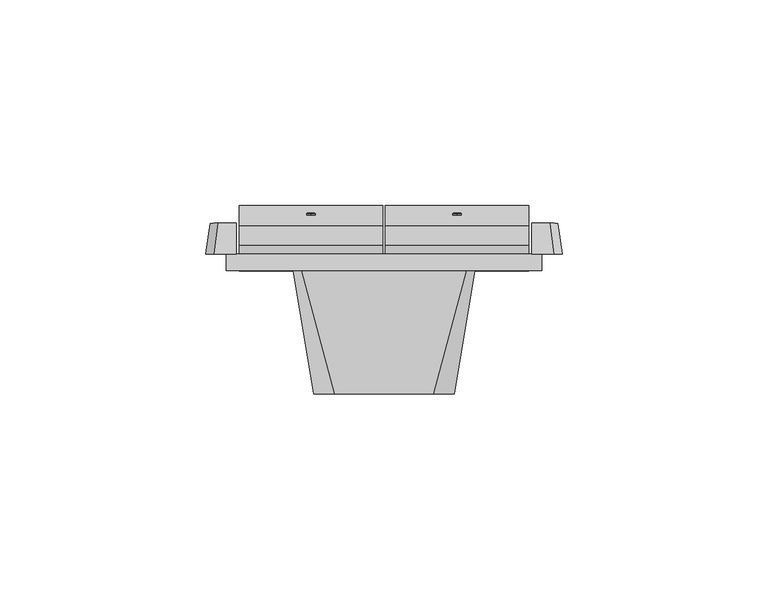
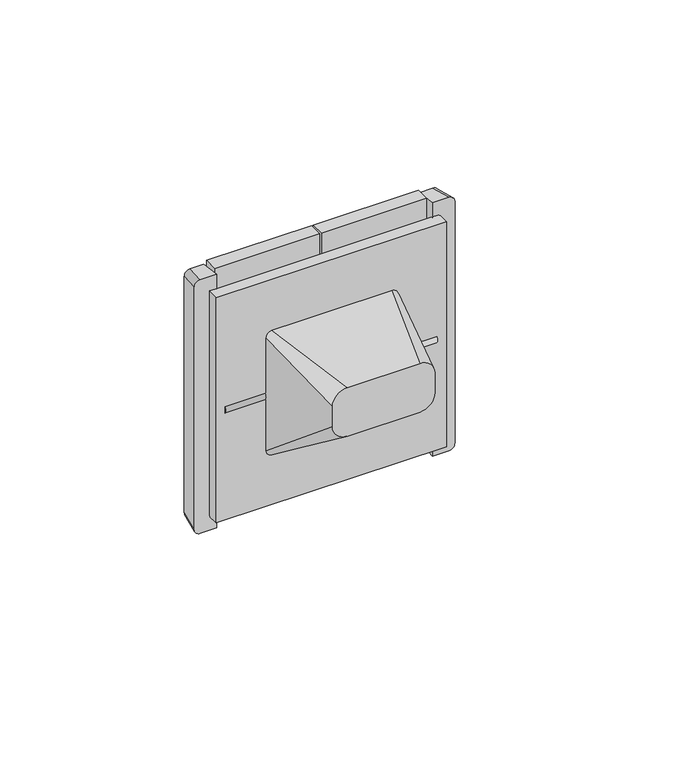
"""IFC4 building model written with IfcOpenShell, lengths in millimetres: proxy geometry, IEK_Forte&Piano_Выключатель : В2 И_FP106."""

from ifc_helpers import new_model, si_unit, point, frame, frame_2d, origin, place, context, project, spatial, polyline, circle_curve, ellipse_curve, trimmed, segment, composite_curve, outline, extrude, source, transform, mapped, element, save
from ifc_brep_helpers import plane_surface, cylinder_surface, revolved_surface, extruded_surface, spline_surface, advanced_brep


def electrical_fixtures_800dceb6(model_context):
    return source(origin(), model_context, "Body", "SolidModel", [
        advanced_brep(
        [(-35.2, 6.2549179, 2.9812023), (-35.2, 6.2549179, 44.8795088), (-35.2, 10.987727, 44.8795088), (-35.2, 15.7741028, -43.2498951), (-35.2, 10.7814607, -43.5210494), (-35.2, 6.5964168, -3.3066655), (-35.2, 1.5972872, -2.8692983), (-35.2, 0.9979294, 0.5298284), (-0.3, 6.2549179, 2.9812023), (-0.3, 0.9979294, 0.5298284), (-0.3, 1.5972872, -2.8692983), (-0.3, 6.5964168, -3.3066655), (-0.3, 7.4154801, -11.1771032), (-0.3, 11.5120925, -11.1771032), (-0.3, 11.5120925, -15.1771032), (-0.3, 7.8317535, -15.1771032), (-0.3, 10.7814607, -43.5210494), (-0.3, 15.7741028, -43.2498951), (-0.3, 10.987727, 44.8795088), (-0.3, 6.2549179, 44.8795088), (-6.0000251, 7.8317535, -15.1771032), (-6.0000251, 7.4154801, -11.1771032), (-6.0000251, 11.5120925, -11.1771032), (-6.0000251, 11.5120925, -15.1771032)],
        [
            (0, 1),
            (1, 2),
            (2, 3),
            (3, 4),
            (4, 5),
            (5, 6),
            (6, 7, circle_curve(frame((-35.2, 1.7530049, -1.0894363), z_axis=(-1.0, 0.0, 0.0), x_axis=(0.0, 1.0, 0.0)), 1.7866608)),
            (7, 0),
            (8, 9),
            (9, 10, circle_curve(frame((-0.3, 1.7530049, -1.0894363), z_axis=(1.0, 0.0, 0.0), x_axis=(0.0, 1.0, 0.0)), 1.7866608)),
            (10, 11),
            (11, 12),
            (12, 13),
            (13, 14),
            (14, 15),
            (15, 16),
            (16, 17),
            (17, 18),
            (18, 19),
            (19, 8),
            (0, 8),
            (19, 1),
            (7, 9),
            (6, 10),
            (5, 11),
            (4, 16),
            (15, 20),
            (20, 21, ellipse_curve(frame((-6.0000251, 7.6236168, -13.1771032), z_axis=(0.0, 0.9946284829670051, 0.10350932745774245), x_axis=(0.0, -0.10350932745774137, 0.9946284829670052)), 2.0108011, 2.0)),
            (21, 12),
            (3, 17),
            (2, 18),
            (22, 23, circle_curve(frame((-6.0000251, 11.5120925, -13.1771032), z_axis=(0.0, -1.0, 0.0), x_axis=(1.0, 0.0, 0.0)), 2.0)),
            (23, 14),
            (13, 22),
            (21, 22),
            (20, 23),
        ],
        [
            plane_surface(frame((-35.2, 6.2549179, 21.8770556), z_axis=(-1.0, 0.0, 0.0), x_axis=(0.0, 0.0, 1.0))),
            plane_surface(frame((-0.3, 6.2549179, 21.8770556), z_axis=(1.0, 0.0, 0.0), x_axis=(0.0, 0.0, -1.0))),
            plane_surface(frame((-35.2, 6.2549179, 2.9812023), z_axis=(0.0, -1.0, 0.0), x_axis=(1.0, 0.0, 0.0))),
            plane_surface(frame((-35.2, 0.9979294, 0.5298284), z_axis=(0.0, -0.4226182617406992, 0.90630778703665), x_axis=(1.0, 0.0, 0.0))),
            cylinder_surface(frame((-0.3, 1.7530049, -1.0894363), z_axis=(-1.0, 0.0, 0.0), x_axis=(0.0, 1.0, 0.0)), 1.7866608),
            plane_surface(frame((-35.2, 6.5964168, -3.3066655), z_axis=(0.0, -0.08715574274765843, -0.9961946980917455), x_axis=(1.0, 0.0, 0.0))),
            plane_surface(frame((-35.2, 10.7814607, -43.5210494), z_axis=(0.0, -0.9946284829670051, -0.10350932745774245), x_axis=(1.0, 0.0, 0.0))),
            plane_surface(frame((-35.2, 15.7741028, -43.2498951), z_axis=(0.0, 0.05423084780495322, -0.9985284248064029), x_axis=(1.0, 0.0, 0.0))),
            plane_surface(frame((-35.2, 10.987727, 44.8795088), z_axis=(0.0, 0.9985284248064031, 0.05423084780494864), x_axis=(1.0, 0.0, 0.0))),
            plane_surface(frame((-35.2, 6.2549179, 44.8795088), z_axis=(0.0, 0.0, 1.0), x_axis=(1.0, 0.0, 0.0))),
            plane_surface(frame((-6.0000251, 11.5120925, -11.1771032), z_axis=(0.0, -1.0, 0.0), x_axis=(1.0, 0.0, 0.0))),
            plane_surface(frame((6.0000251, 3.5120925, -11.1771032), z_axis=(0.0, 0.0, -1.0), x_axis=(0.0, 1.0, 0.0))),
            revolved_surface(polyline([(-4.0000251, 7.4154801, -13.1771032), (-4.0000251, 11.5120925, -13.1771032)]), (-6.0000251, 11.5120925, -13.1771032), (0.0, -1.0, 0.0)),
            plane_surface(frame((-6.0000251, 3.5120925, -15.1771032), z_axis=(0.0, 0.0, 1.0), x_axis=(0.0, 1.0, 0.0))),
        ],
        [
            (0, [[1, 2, 3, 4, 5, 6, 7, 8]]),
            (1, [[9, 10, 11, 12, 13, 14, 15, 16, 17, 18, 19, 20]]),
            (2, [[-1, 21, -20, 22]]),
            (3, [[-8, 23, -9, -21]]),
            (4, [[-7, 24, -10, -23]]),
            (5, [[-6, 25, -11, -24]]),
            (6, [[-5, 26, -16, 27, 28, 29, -12, -25]]),
            (7, [[-4, 30, -17, -26]]),
            (8, [[-3, 31, -18, -30]]),
            (9, [[-2, -22, -19, -31]]),
            (10, [[32, 33, -14, 34]]),
            (11, [[-34, -13, -29, 35]]),
            (12, [[-32, -35, -28, 36]]),
            (13, [[-33, -36, -27, -15]]),
        ],
    ),
        advanced_brep(
        [(35.2, 6.2549179, 2.9812023), (35.2, 0.9979294, 0.5298284), (35.2, 1.5972872, -2.8692983), (35.2, 6.5964168, -3.3066655), (35.2, 10.7814607, -43.5210494), (35.2, 15.7741028, -43.2498951), (35.2, 10.987727, 44.8795088), (35.2, 6.2549179, 44.8795088), (0.3, 6.2549179, 2.9812023), (0.3, 6.2549179, 44.8795088), (0.3, 10.987727, 44.8795088), (0.3, 15.7741028, -43.2498951), (0.3, 10.7814607, -43.5210494), (0.3, 7.8317535, -15.1771032), (0.3, 11.5120925, -15.1771032), (0.3, 11.5120925, -11.1771032), (0.3, 7.4154801, -11.1771032), (0.3, 6.5964168, -3.3066655), (0.3, 1.5972872, -2.8692983), (0.3, 0.9979294, 0.5298284), (6.0000251, 7.4154801, -11.1771032), (6.0000251, 7.8317535, -15.1771032), (6.0000251, 11.5120925, -15.1771032), (6.0000251, 11.5120925, -11.1771032)],
        [
            (0, 1),
            (1, 2, circle_curve(frame((35.2, 1.7530049, -1.0894363), z_axis=(1.0, 0.0, 0.0), x_axis=(0.0, 1.0, 0.0)), 1.7866608)),
            (2, 3),
            (3, 4),
            (4, 5),
            (5, 6),
            (6, 7),
            (7, 0),
            (8, 9),
            (9, 10),
            (10, 11),
            (11, 12),
            (12, 13),
            (13, 14),
            (14, 15),
            (15, 16),
            (16, 17),
            (17, 18),
            (18, 19, circle_curve(frame((0.3, 1.7530049, -1.0894363), z_axis=(-1.0, 0.0, 0.0), x_axis=(0.0, 1.0, 0.0)), 1.7866608)),
            (19, 8),
            (7, 9),
            (8, 0),
            (19, 1),
            (18, 2),
            (17, 3),
            (16, 20),
            (20, 21, ellipse_curve(frame((6.0000251, 7.6236168, -13.1771032), z_axis=(0.0, 0.9946284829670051, 0.10350932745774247), x_axis=(0.0, -0.10350932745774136, 0.9946284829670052)), 2.0108011, 2.0)),
            (21, 13),
            (12, 4),
            (11, 5),
            (10, 6),
            (22, 23, circle_curve(frame((6.0000251, 11.5120925, -13.1771032), z_axis=(0.0, -1.0, 0.0), x_axis=(1.0, 0.0, 0.0)), 2.0)),
            (23, 15),
            (14, 22),
            (23, 20),
            (21, 22),
        ],
        [
            plane_surface(frame((35.2, -0.6655077, -0.2458451), z_axis=(1.0, 0.0, 0.0), x_axis=(0.0, -0.9063077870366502, -0.42261826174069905))),
            plane_surface(frame((0.3, -0.6655077, -0.2458451), z_axis=(-1.0, 0.0, 0.0), x_axis=(0.0, 0.9063077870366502, 0.42261826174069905))),
            plane_surface(frame((35.2, 6.2549179, 44.8795088), z_axis=(0.0, -1.0, 0.0), x_axis=(-1.0, 0.0, 0.0))),
            plane_surface(frame((35.2, 6.2549179, 2.9812023), z_axis=(0.0, -0.42261826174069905, 0.9063077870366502), x_axis=(-1.0, 0.0, 0.0))),
            cylinder_surface(frame((0.3, 1.7530049, -1.0894363), z_axis=(1.0, 0.0, 0.0), x_axis=(0.0, 1.0, 0.0)), 1.7866608),
            plane_surface(frame((35.2, 1.5972872, -2.8692983), z_axis=(0.0, -0.08715574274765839, -0.9961946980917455), x_axis=(-1.0, 0.0, 0.0))),
            plane_surface(frame((35.2, 6.5964168, -3.3066655), z_axis=(0.0, -0.9946284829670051, -0.10350932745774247), x_axis=(-1.0, 0.0, 0.0))),
            plane_surface(frame((35.2, 10.7814607, -43.5210494), z_axis=(0.0, 0.05423084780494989, -0.998528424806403), x_axis=(-1.0, 0.0, 0.0))),
            plane_surface(frame((35.2, 15.7741028, -43.2498951), z_axis=(0.0, 0.9985284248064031, 0.05423084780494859), x_axis=(-1.0, 0.0, 0.0))),
            plane_surface(frame((35.2, 10.987727, 44.8795088), z_axis=(0.0, 0.0, 1.0), x_axis=(-1.0, 0.0, 0.0))),
            plane_surface(frame((-6.0000251, 11.5120925, -11.1771032), z_axis=(0.0, -1.0, 0.0), x_axis=(1.0, 0.0, 0.0))),
            plane_surface(frame((6.0000251, 3.5120925, -11.1771032), z_axis=(0.0, 0.0, -1.0), x_axis=(0.0, 1.0, 0.0))),
            plane_surface(frame((-6.0000251, 3.5120925, -15.1771032), z_axis=(0.0, 0.0, 1.0), x_axis=(0.0, 1.0, 0.0))),
            revolved_surface(polyline([(8.0000251, 7.4154801, -13.1771032), (8.0000251, 11.5120925, -13.1771032)]), (6.0000251, 11.5120925, -13.1771032), (0.0, -1.0, 0.0)),
        ],
        [
            (0, [[1, 2, 3, 4, 5, 6, 7, 8]]),
            (1, [[9, 10, 11, 12, 13, 14, 15, 16, 17, 18, 19, 20]]),
            (2, [[-8, 21, -9, 22]]),
            (3, [[-1, -22, -20, 23]]),
            (4, [[-2, -23, -19, 24]]),
            (5, [[-3, -24, -18, 25]]),
            (6, [[-4, -25, -17, 26, 27, 28, -13, 29]]),
            (7, [[-5, -29, -12, 30]]),
            (8, [[-6, -30, -11, 31]]),
            (9, [[-7, -31, -10, -21]]),
            (10, [[32, 33, -15, 34]]),
            (11, [[-33, 35, -26, -16]]),
            (12, [[-34, -14, -28, 36]]),
            (13, [[-32, -36, -27, -35]]),
        ],
    ),
        extrude(outline(composite_curve([segment(trimmed(circle_curve(frame_2d((0.0, -1.0000001)), 1.0), [point((0.0, -2.0000001))], [point((0.0, 0.0))], False, "CARTESIAN"), True, "CONTINUOUS"), segment(trimmed(circle_curve(frame_2d((0.0, -1.0000001)), 1.0), [point((0.0, 0.0))], [point((0.0, -2.0000001))], False, "CARTESIAN"), True, "CONTINUOUS")], self_intersect=False)), frame((-17.75, 13.4719361, -0.8611253), z_axis=(0.0, 0.9985284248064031, 0.0542308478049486), x_axis=(1.0, 0.0, 0.0)), (0.0, 0.0, 1.0), 0.5),
        extrude(outline(composite_curve([segment(trimmed(circle_curve(frame_2d((0.0, -1.0000001)), 1.0), [point((0.0, -2.0000001))], [point((0.0, 0.0))], False, "CARTESIAN"), True, "CONTINUOUS"), segment(trimmed(circle_curve(frame_2d((0.0, -1.0000001)), 1.0), [point((0.0, 0.0))], [point((0.0, -2.0000001))], False, "CARTESIAN"), True, "CONTINUOUS")], self_intersect=False)), frame((17.75, 13.4719361, -0.8611253), z_axis=(0.0, 0.9985284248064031, 0.0542308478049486), x_axis=(1.0, 0.0, 0.0)), (0.0, 0.0, 1.0), 0.5),
        advanced_brep(
        [(35.8576533, 11.5, 43.5), (35.8576533, 11.5, -43.5), (35.8576533, 4.0, -44.5), (35.8576533, 4.0, -39.5), (35.8576533, 4.0, 39.5), (35.8576533, 4.0, 44.5), (-35.8576533, 11.5, -43.5), (-35.8576533, 11.5, 43.5), (-35.8576533, 4.0, 44.5), (-35.8576533, 4.0, 39.5), (-35.8576533, 4.0, -39.5), (-35.8576533, 4.0, -44.5), (40.25, 11.5, 43.5), (42.25, 11.5, 41.5), (42.25, 11.5, -41.5), (40.25, 11.5, -43.5), (-40.25, 11.5, -43.5), (-42.25, 11.5, -41.5), (-42.25, 11.5, 41.5), (-40.25, 11.5, 43.5), (-41.25, 4.0, 44.5), (-43.25, 4.0, 42.5), (-43.25, 4.0, -42.5), (-41.25, 4.0, -44.5), (-38.25, 4.0, -39.5), (-38.25, 4.0, 39.5), (41.25, 4.0, -44.5), (43.25, 4.0, -42.5), (43.25, 4.0, 42.5), (41.25, 4.0, 44.5), (38.25, 4.0, 39.5), (38.25, 4.0, -39.5), (-38.25, 0.0, 39.5), (-38.25, 0.0, -39.5), (38.25, 0.0, -39.5), (38.25, 0.0, 39.5)],
        [
            (0, 1),
            (1, 2),
            (2, 3),
            (3, 4),
            (4, 5),
            (5, 0),
            (6, 7),
            (7, 8),
            (8, 9),
            (9, 10),
            (10, 11),
            (11, 6),
            (12, 13, circle_curve(frame((40.25, 11.5, 41.5), z_axis=(0.0, 1.0, 0.0), x_axis=(-1.0, 0.0, 0.0)), 2.0)),
            (13, 14),
            (14, 15, circle_curve(frame((40.25, 11.5, -41.5), z_axis=(0.0, 1.0, 0.0), x_axis=(-1.0, 0.0, 0.0)), 2.0)),
            (15, 1),
            (0, 12),
            (16, 17, circle_curve(frame((-40.25, 11.5, -41.5), z_axis=(0.0, 1.0, 0.0), x_axis=(-1.0, 0.0, 0.0)), 2.0)),
            (17, 18),
            (18, 19, circle_curve(frame((-40.25, 11.5, 41.5), z_axis=(0.0, 1.0, 0.0), x_axis=(-1.0, 0.0, 0.0)), 2.0)),
            (19, 7),
            (6, 16),
            (20, 21, circle_curve(frame((-41.25, 4.0, 42.5), z_axis=(0.0, -1.0, 0.0), x_axis=(-1.0, 0.0, 0.0)), 2.0)),
            (21, 22),
            (22, 23, circle_curve(frame((-41.25, 4.0, -42.5), z_axis=(0.0, -1.0, 0.0), x_axis=(-1.0, 0.0, 0.0)), 2.0)),
            (23, 11),
            (10, 24),
            (24, 25),
            (25, 9),
            (8, 20),
            (26, 27, circle_curve(frame((41.25, 4.0, -42.5), z_axis=(0.0, -1.0, 0.0), x_axis=(-1.0, 0.0, 0.0)), 2.0)),
            (27, 28),
            (28, 29, circle_curve(frame((41.25, 4.0, 42.5), z_axis=(0.0, -1.0, 0.0), x_axis=(-1.0, 0.0, 0.0)), 2.0)),
            (29, 5),
            (4, 30),
            (30, 31),
            (31, 3),
            (2, 26),
            (29, 12),
            (19, 20),
            (28, 13),
            (27, 14),
            (26, 15),
            (23, 16),
            (22, 17),
            (21, 18),
            (3, 10),
            (9, 4),
            (32, 33),
            (33, 34),
            (34, 35),
            (35, 32),
            (32, 25),
            (24, 33),
            (31, 34),
            (30, 35),
        ],
        [
            plane_surface(frame((35.8576533, 11.5, 44.5), z_axis=(-1.0, 0.0, 0.0), x_axis=(0.0, -1.0, 0.0))),
            plane_surface(frame((-35.8576533, 11.5, -44.5), z_axis=(1.0, 0.0, 0.0), x_axis=(0.0, -1.0, 0.0))),
            plane_surface(frame((0.0, 11.5, 0.0), z_axis=(0.0, 1.0, 0.0), x_axis=(1.0, 0.0, 0.0))),
            plane_surface(frame((0.0, 4.0, 0.0), z_axis=(0.0, -1.0, 0.0), x_axis=(1.0, 0.0, 0.0))),
            plane_surface(frame((0.0, 4.0, 44.5), z_axis=(0.0, 0.13216372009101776, 0.9912279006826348), x_axis=(1.0, 0.0, 0.0))),
            extruded_surface(trimmed(circle_curve(frame((41.25, 4.0, 42.5), z_axis=(0.0, 1.0, 0.0), x_axis=(-1.0, 0.0, 0.0)), 2.0), [point((41.25, 4.0, 44.5))], [point((43.25, 4.0, 42.5))], True, "CARTESIAN"), (-1.0, 7.5, -1.0), 7.632168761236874),
            plane_surface(frame((43.25, 4.0, 0.0), z_axis=(0.9912279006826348, 0.13216372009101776, 0.0), x_axis=(0.0, 0.0, -1.0))),
            extruded_surface(trimmed(circle_curve(frame((41.25, 4.0, -42.5), z_axis=(0.0, 1.0, 0.0), x_axis=(-1.0, 0.0, 0.0)), 2.0), [point((43.25, 4.0, -42.5))], [point((41.25, 4.0, -44.5))], True, "CARTESIAN"), (-1.0, 7.5, 1.0), 7.632168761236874),
            plane_surface(frame((0.0, 4.0, -44.5), z_axis=(0.0, 0.13216372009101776, -0.9912279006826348), x_axis=(-1.0, 0.0, 0.0))),
            extruded_surface(trimmed(circle_curve(frame((-41.25, 4.0, -42.5), z_axis=(0.0, 1.0, 0.0), x_axis=(-1.0, 0.0, 0.0)), 2.0), [point((-41.25, 4.0, -44.5))], [point((-43.25, 4.0, -42.5))], True, "CARTESIAN"), (1.0, 7.5, 1.0), 7.632168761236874),
            plane_surface(frame((-43.25, 4.0, 0.0), z_axis=(-0.9912279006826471, 0.13216372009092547, 0.0), x_axis=(0.0, 0.0, 1.0))),
            extruded_surface(trimmed(circle_curve(frame((-41.25, 4.0, 42.5), z_axis=(0.0, 1.0, 0.0), x_axis=(-1.0, 0.0, 0.0)), 2.0), [point((-43.25, 4.0, 42.5))], [point((-41.25, 4.0, 44.5))], True, "CARTESIAN"), (1.0, 7.5, -1.0), 7.632168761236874),
            plane_surface(frame((-38.25, 4.0, 39.5), z_axis=(0.0, 1.0, 0.0), x_axis=(0.0, 0.0, 1.0))),
            plane_surface(frame((-38.25, 0.0, 39.5), z_axis=(0.0, -1.0, 0.0), x_axis=(0.0, 0.0, -1.0))),
            plane_surface(frame((-38.25, 0.0, 39.5), z_axis=(-1.0, 0.0, 0.0), x_axis=(0.0, 1.0, 0.0))),
            plane_surface(frame((-38.25, 0.0, -39.5), z_axis=(0.0, 0.0, -1.0), x_axis=(0.0, 1.0, 0.0))),
            plane_surface(frame((38.25, 0.0, -39.5), z_axis=(1.0, 0.0, 0.0), x_axis=(0.0, 1.0, 0.0))),
            plane_surface(frame((38.25, 0.0, 39.5), z_axis=(0.0, 0.0, 1.0), x_axis=(0.0, 1.0, 0.0))),
        ],
        [
            (0, [[1, 2, 3, 4, 5, 6]]),
            (1, [[7, 8, 9, 10, 11, 12]]),
            (2, [[13, 14, 15, 16, -1, 17]]),
            (2, [[18, 19, 20, 21, -7, 22]]),
            (3, [[23, 24, 25, 26, -11, 27, 28, 29, -9, 30]]),
            (3, [[31, 32, 33, 34, -5, 35, 36, 37, -3, 38]]),
            (4, [[39, -17, -6, -34]]),
            (4, [[40, -30, -8, -21]]),
            (5, [[-13, -39, -33, 41]]),
            (6, [[-14, -41, -32, 42]]),
            (7, [[-15, -42, -31, 43]]),
            (8, [[-43, -38, -2, -16]]),
            (8, [[44, -22, -12, -26]]),
            (9, [[-18, -44, -25, 45]]),
            (10, [[-19, -45, -24, 46]]),
            (11, [[-20, -46, -23, -40]]),
            (12, [[47, -10, 48, -4]]),
            (13, [[49, 50, 51, 52]]),
            (14, [[-49, 53, -28, 54]]),
            (15, [[-50, -54, -27, -47, -37, 55]]),
            (16, [[-51, -55, -36, 56]]),
            (17, [[-52, -56, -35, -48, -29, -53]]),
        ],
    ),
        advanced_brep(
        [(-12.0, -30.0, 17.0), (-17.0, -30.0, 12.0), (-17.0, -30.0, 5.0), (-12.0, -30.0, 0.0), (12.0, -30.0, 0.0), (17.0, -30.0, 5.0), (17.0, -30.0, 12.0), (12.0, -30.0, 17.0), (-20.0, 0.0, 22.0), (20.0, 0.0, 22.0), (22.0, 0.0, 20.0), (22.0, 0.0, -20.0), (20.0, 0.0, -22.0), (-20.0, 0.0, -22.0), (-22.0, 0.0, -20.0), (-22.0, 0.0, 20.0)],
        [
            (0, 1, circle_curve(frame((-12.0, -30.0, 12.0), z_axis=(0.0, -1.0, 0.0), x_axis=(1.0, 0.0, 0.0)), 5.0)),
            (1, 2),
            (2, 3, circle_curve(frame((-12.0, -30.0, 5.0), z_axis=(0.0, -1.0, 0.0), x_axis=(1.0, 0.0, 0.0)), 5.0)),
            (3, 4),
            (4, 5, circle_curve(frame((12.0, -30.0, 5.0), z_axis=(0.0, -1.0, 0.0), x_axis=(1.0, 0.0, 0.0)), 5.0)),
            (5, 6),
            (6, 7, circle_curve(frame((12.0, -30.0, 12.0), z_axis=(0.0, -1.0, 0.0), x_axis=(1.0, 0.0, 0.0)), 5.0)),
            (7, 0),
            (8, 9),
            (9, 10, circle_curve(frame((20.0, 0.0, 20.0), z_axis=(0.0, 1.0, 0.0), x_axis=(1.0, 0.0, 0.0)), 2.0)),
            (10, 11),
            (11, 12, circle_curve(frame((20.0, 0.0, -20.0), z_axis=(0.0, 1.0, 0.0), x_axis=(1.0, 0.0, 0.0)), 2.0)),
            (12, 13),
            (13, 14, circle_curve(frame((-20.0, 0.0, -20.0), z_axis=(0.0, 1.0, 0.0), x_axis=(1.0, 0.0, 0.0)), 2.0)),
            (14, 15),
            (15, 8, circle_curve(frame((-20.0, 0.0, 20.0), z_axis=(0.0, 1.0, 0.0), x_axis=(1.0, 0.0, 0.0)), 2.0)),
            (8, 0),
            (7, 9),
            (6, 10),
            (5, 11),
            (4, 12),
            (3, 13),
            (2, 14),
            (1, 15),
        ],
        [
            plane_surface(frame((0.0, -30.0, 8.5), z_axis=(0.0, -1.0, 0.0), x_axis=(-1.0, 0.0, 0.0))),
            plane_surface(frame((0.0, 0.0, 0.0), z_axis=(0.0, 1.0, 0.0), x_axis=(-1.0, 0.0, 0.0))),
            plane_surface(frame((0.0, 0.0, 22.0), z_axis=(0.0, -0.16439898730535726, 0.9863939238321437), x_axis=(-1.0, 0.0, 0.0))),
            spline_surface(2, 1, [[(22.0, 0.0, 20.0), (17.0, -30.0, 12.0)], [(22.0, 0.0, 22.0), (17.0, -30.0, 17.0)], [(20.0, 0.0, 22.0), (12.0, -30.0, 17.0)]], [3, 3], [2, 2], [0.0, 1.0], [0.0, 1.0], weights=[[1.0, 1.0], [0.7071067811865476, 0.7071067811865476], [1.0, 1.0]]),
            plane_surface(frame((22.0, 0.0, 0.0), z_axis=(0.9863939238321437, -0.1643989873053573, 0.0), x_axis=(0.0, 0.0, 1.0))),
            spline_surface(2, 1, [[(20.0, 0.0, -22.0), (12.0, -30.0, 0.0)], [(22.0, 0.0, -22.0), (17.0, -30.0, 0.0)], [(22.0, 0.0, -20.0), (17.0, -30.0, 5.0)]], [3, 3], [2, 2], [0.0, 1.0], [0.0, 1.0], weights=[[1.0, 1.0], [0.7071067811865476, 0.7071067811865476], [1.0, 1.0]]),
            plane_surface(frame((0.0, 0.0, -22.0), z_axis=(0.0, -0.591363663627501, -0.8064049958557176), x_axis=(1.0, 0.0, 0.0))),
            spline_surface(2, 1, [[(-22.0, 0.0, -20.0), (-17.0, -30.0, 5.0)], [(-22.0, 0.0, -22.0), (-17.0, -30.0, 0.0)], [(-20.0, 0.0, -22.0), (-12.0, -30.0, 0.0)]], [3, 3], [2, 2], [0.0, 1.0], [0.0, 1.0], weights=[[1.0, 1.0], [0.7071067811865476, 0.7071067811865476], [1.0, 1.0]]),
            plane_surface(frame((-22.0, 0.0, 0.0), z_axis=(-0.9863939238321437, -0.1643989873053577, 0.0), x_axis=(0.0, 0.0, -1.0))),
            spline_surface(2, 1, [[(-20.0, 0.0, 22.0), (-12.0, -30.0, 17.0)], [(-22.0, 0.0, 22.0), (-17.0, -30.0, 17.0)], [(-22.0, 0.0, 20.0), (-17.0, -30.0, 12.0)]], [3, 3], [2, 2], [0.0, 1.0], [0.0, 1.0], weights=[[1.0, 1.0], [0.7071067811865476, 0.7071067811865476], [1.0, 1.0]]),
        ],
        [
            (0, [[1, 2, 3, 4, 5, 6, 7, 8]]),
            (1, [[9, 10, 11, 12, 13, 14, 15, 16]]),
            (2, [[-9, 17, -8, 18]]),
            (3, [[-10, -18, -7, 19]]),
            (4, [[-11, -19, -6, 20]]),
            (5, [[-12, -20, -5, 21]]),
            (6, [[-13, -21, -4, 22]]),
            (7, [[-14, -22, -3, 23]]),
            (8, [[-15, -23, -2, 24]]),
            (9, [[-16, -24, -1, -17]]),
        ],
    ),
    ])


if __name__ == "__main__":
    model = new_model("IFC4")
    model_context = context("Model", 3, world=origin())
    ifc_project = project(units=[si_unit("LENGTHUNIT", "METRE", prefix="MILLI")], contexts=[model_context])
    site = spatial("IfcSite", under=ifc_project)
    building = spatial("IfcBuilding", under=site)
    placement = place(None, origin())
    electrical_fixtures_shape = electrical_fixtures_800dceb6(model_context)
    element("IfcBuildingElementProxy", 1, Name="IEK_Forte&Piano_Выключатель : В2 И_FP106", ObjectType="IEK_Forte&Piano_Выключатель : В2 И_FP106", at=placement, inside=building, context=model_context, shape_type="MappedRepresentation", body=[
        mapped(electrical_fixtures_shape, transform((0.0, 0.0, 0.0), x_axis=(1.0, 0.0, 0.0), y_axis=(0.0, 1.0, 0.0), z_axis=(0.0, 0.0, 1.0))),
    ])
    save(model, "model.ifc")
